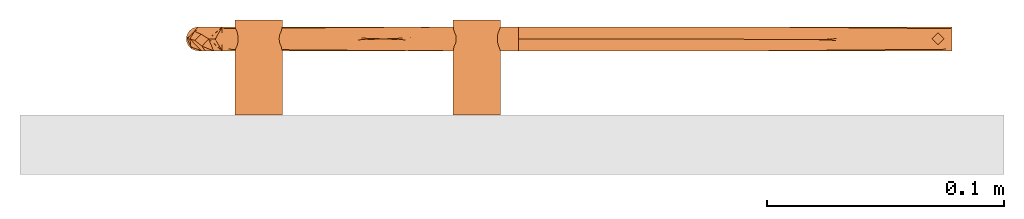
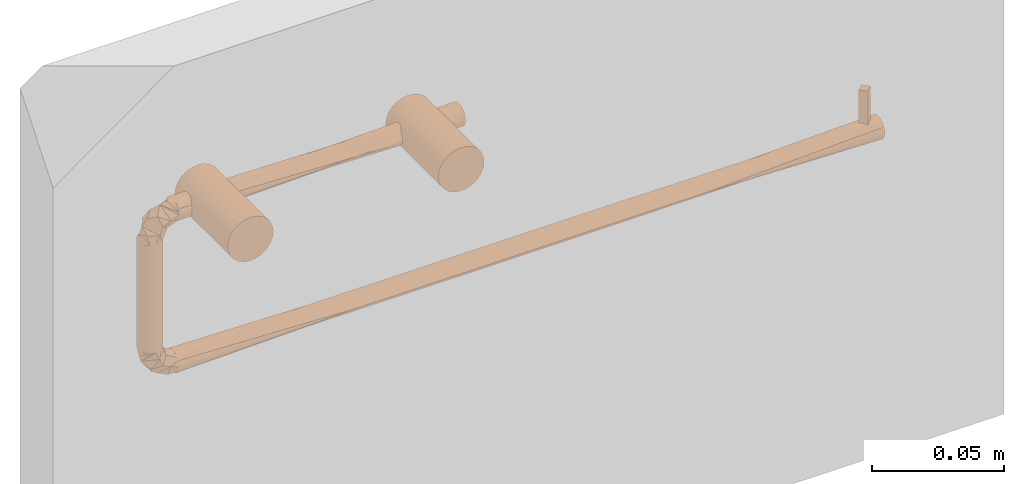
# One storey, part 2 of 2: 1 proxy.
"""IFC2X3 building model written with IfcOpenShell, lengths in millimetres."""

from ifc_helpers import new_model, entity, si_unit, converted_unit, derived_unit, direction, frame, origin, place, context, subcontext, project, spatial, faceted_brep, source, transform, mapped, material, element, save


model = new_model("IFC2X3")

# Units and contexts
model_context = context("Model", 3, precision=1e-05, world=origin(), true_north=direction((2.0, 6.12303176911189e-17, 1.0)))
context_of_model = context(None, 3, precision=1e-05, world=origin(), true_north=direction((2.0, 6.12303176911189e-17, 1.0)))
body_context = subcontext(model_context, "Body", "Model", "MODEL_VIEW")
ifc_project = project(units=[si_unit("LENGTHUNIT", "METRE", prefix="MILLI"), si_unit("AREAUNIT", "SQUARE_METRE"), si_unit("VOLUMEUNIT", "CUBIC_METRE"), converted_unit("PLANEANGLEUNIT", "DEGREE", entity("IfcRatioMeasure", 0.0174532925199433), si_unit("PLANEANGLEUNIT", "RADIAN"), dimensions=[0, 0, 0, 0, 0, 0, 0]), si_unit("MASSUNIT", "GRAM", prefix="KILO"), si_unit("TIMEUNIT", "SECOND"), si_unit("THERMODYNAMICTEMPERATUREUNIT", "KELVIN"), derived_unit("THERMALTRANSMITTANCEUNIT", [(si_unit("MASSUNIT", "GRAM", prefix="KILO"), 1), (si_unit("THERMODYNAMICTEMPERATUREUNIT", "KELVIN"), -1), (si_unit("TIMEUNIT", "SECOND"), -3)]), derived_unit("VOLUMETRICFLOWRATEUNIT", [(si_unit("LENGTHUNIT", "METRE"), 3), (si_unit("TIMEUNIT", "SECOND"), -1)]), si_unit("POWERUNIT", "WATT")], contexts=[model_context, context_of_model])

# Site, building, storey
site_placement = place(None, origin())
site = spatial("IfcSite", under=ifc_project, at=site_placement, Name="Default", CompositionType="ELEMENT")
building_placement = place(site_placement, origin())
building = spatial("IfcBuilding", under=site, at=building_placement, CompositionType="ELEMENT")
storey_placement = place(building_placement, origin())
storey = spatial("IfcBuildingStorey", under=building, at=storey_placement, Name="Level 1", CompositionType="ELEMENT", Elevation=0.0)

# Proxy
ifc_material = material(Name="Stainless Steel")
shared_shape = source(origin(), body_context, "Body", "Brep", [
    faceted_brep([(3.45194365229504, 7.97378390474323, 26.5952722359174), (6.0, 7.97378390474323, 26.5952722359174), (6.0, 10.5218402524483, 26.5952722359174), (6.0, 5.42572755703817, 26.5952722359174), (8.54805634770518, 7.97378390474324, 26.5952722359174), (6.0, 5.42572755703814, 9.70208598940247), (3.45194365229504, 7.9737839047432, 9.70208598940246), (6.0, 10.5218402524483, 9.70208598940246), (8.54805634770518, 7.97378390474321, 9.70208598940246), (6.0, 7.9737839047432, 9.70208598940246)], [[[0, 1, 2]], [[1, 0, 3]], [[4, 1, 3]], [[1, 4, 2]], [[5, 3, 0, 6]], [[0, 2, 7, 6]], [[7, 2, 4, 8]], [[4, 3, 5, 8]], [[7, 9, 6]], [[7, 8, 9]], [[5, 9, 8]], [[5, 6, 9]]]),
    faceted_brep([(183.0, 12.9737839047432, 76.5952722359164), (183.0, 12.8034130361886, 75.3011770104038), (183.0, 12.3039109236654, 74.0952722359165), (183.0, 11.509317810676, 73.0597383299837), (183.0, 10.4737839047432, 72.2651452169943), (183.0, 9.26787913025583, 71.7656431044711), (183.0, 7.97378390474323, 71.5952722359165), (183.0, 6.67968867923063, 71.7656431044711), (183.0, 5.47378390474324, 72.2651452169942), (183.0, 4.43824999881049, 73.0597383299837), (183.0, 3.64365688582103, 74.0952722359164), (183.0, 3.14415477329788, 75.3011770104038), (183.0, 2.97378390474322, 76.5952722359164), (183.0, 3.14415477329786, 77.889367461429), (183.0, 3.64365688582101, 79.0952722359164), (183.0, 4.43824999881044, 80.1308061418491), (183.0, 5.47378390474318, 80.9253992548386), (183.0, 6.67968867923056, 81.4249013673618), (183.0, 7.97378390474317, 81.5952722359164), (183.0, 9.26787913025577, 81.4249013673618), (183.0, 10.4737839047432, 80.9253992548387), (183.0, 11.5093178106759, 80.1308061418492), (183.0, 12.3039109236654, 79.0952722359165), (183.0, 12.8034130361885, 77.8893674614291), (308.0, 4.43824999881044, 80.1308061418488), (239.739610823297, 7.97378375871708, 81.5952722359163), (308.0, 3.64365688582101, 79.095272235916), (308.0, 3.14415477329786, 77.8893674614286), (229.923112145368, 2.97378390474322, 76.5952722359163), (308.0, 2.97378390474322, 76.595272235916), (308.0, 10.4737839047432, 80.9253992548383), (308.0, 11.5093178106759, 80.1308061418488), (308.0, 9.26787913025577, 81.4249013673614), (308.0, 6.67968867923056, 81.4249013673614), (308.0, 7.97378390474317, 81.5952722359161), (308.0, 12.3039109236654, 79.0952722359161), (229.923112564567, 12.9737839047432, 76.5952722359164), (308.0, 5.47378390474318, 80.9253992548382), (308.0, 12.8034130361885, 77.8893674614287), (308.0, 12.9737839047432, 76.5952722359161), (308.0, 11.509317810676, 73.0597383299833), (239.739612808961, 7.9737839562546, 71.5952722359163), (308.0, 12.3039109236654, 74.0952722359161), (308.0, 12.8034130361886, 75.3011770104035), (308.0, 6.67968867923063, 71.7656431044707), (308.0, 7.97378390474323, 71.5952722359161), (308.0, 4.43824999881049, 73.0597383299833), (308.0, 5.47378390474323, 72.2651452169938), (308.0, 9.26787913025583, 71.7656431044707), (308.0, 3.64365688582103, 74.0952722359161), (308.0, 10.4737839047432, 72.2651452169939), (308.0, 3.14415477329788, 75.3011770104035), (310.844988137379, 8.10160170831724, 81.3213384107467), (313.588743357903, 7.97378390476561, 80.515255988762), (322.829629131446, 9.26787913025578, 66.5952722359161), (322.614266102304, 7.9482176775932, 69.9748085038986), (323.0, 7.97378390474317, 66.5952722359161), (319.566570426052, 4.7908598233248, 74.2244342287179), (315.071067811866, 2.97378390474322, 73.6663400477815), (316.321845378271, 2.97378390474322, 70.6466958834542), (316.535533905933, 2.97378390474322, 70.1308061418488), (316.834881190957, 5.95108399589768, 78.1843011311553), (311.535533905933, 2.97378390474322, 75.1308061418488), (312.051423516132, 2.97378390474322, 74.917117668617), (321.477125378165, 7.97378390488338, 73.1806417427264), (318.0, 2.97378390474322, 66.5952722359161), (316.535533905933, 12.9737839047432, 70.1308061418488), (321.078964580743, 11.3560314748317, 70.6139769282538), (319.294095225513, 3.14415477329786, 66.5952722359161), (311.535533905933, 12.9737839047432, 75.1308061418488), (310.025711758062, 12.9737839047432, 75.7561949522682), (317.160922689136, 2.97378390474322, 68.6209840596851), (320.5, 3.64365688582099, 66.5952722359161), (321.535533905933, 4.43824999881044, 66.5952722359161), (322.330127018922, 5.47378390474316, 66.5952722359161), (319.443035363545, 8.59215838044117, 76.2340913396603), (322.829629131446, 6.67968867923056, 66.5952722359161), (316.391760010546, 11.0569562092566, 77.7216990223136), (319.294095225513, 12.8034130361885, 66.5952722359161), (318.0, 12.9737839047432, 66.595272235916), (320.5, 12.3039109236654, 66.5952722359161), (317.160922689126, 12.9737839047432, 68.6209840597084), (322.330127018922, 10.4737839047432, 66.5952722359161), (321.535533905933, 11.5093178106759, 66.5952722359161), (315.071067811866, 12.9737839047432, 73.6663400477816), (312.051423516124, 12.9737839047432, 74.9171176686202), (310.025711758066, 2.97378390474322, 75.7561949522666), (316.321845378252, 12.9737839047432, 70.6466958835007), (312.025000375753, 11.1138053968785, 71.1907754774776), (315.5, 12.3039109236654, 66.595272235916), (316.705904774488, 12.8034130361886, 66.595272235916), (311.615301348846, 6.91767758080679, 70.2105742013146), (313.170370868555, 6.67968867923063, 66.595272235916), (313.669872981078, 5.47378390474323, 66.595272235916), (313.170370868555, 9.26787913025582, 66.595272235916), (314.464466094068, 11.509317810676, 66.595272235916), (313.0, 7.97378390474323, 66.595272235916), (313.669872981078, 10.4737839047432, 66.595272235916), (315.5, 3.64365688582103, 66.5952722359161), (316.705904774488, 3.14415477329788, 66.595272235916), (314.464466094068, 4.43824999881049, 66.595272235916), (319.294095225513, 3.14415477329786, 16.595272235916), (318.0, 2.97378390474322, 16.595272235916), (320.5, 3.643656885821, 16.595272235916), (321.535533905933, 4.43824999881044, 16.595272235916), (322.330127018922, 5.47378390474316, 16.595272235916), (322.829629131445, 6.67968867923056, 16.595272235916), (323.0, 7.97378390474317, 16.595272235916), (322.330127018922, 10.4737839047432, 16.595272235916), (322.829629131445, 9.26787913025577, 16.595272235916), (321.535533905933, 11.5093178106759, 16.595272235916), (320.5, 12.3039109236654, 16.595272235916), (319.294095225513, 12.8034130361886, 16.595272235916), (318.0, 12.9737839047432, 16.595272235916), (316.705904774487, 12.8034130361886, 16.595272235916), (315.5, 12.3039109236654, 16.595272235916), (314.464466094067, 11.509317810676, 16.595272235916), (313.669872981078, 10.4737839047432, 16.595272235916), (313.170370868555, 9.26787913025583, 16.595272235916), (313.0, 7.97378390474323, 16.595272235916), (313.669872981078, 5.47378390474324, 16.595272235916), (314.464466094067, 4.4382499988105, 16.595272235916), (313.170370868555, 6.67968867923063, 16.595272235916), (316.705904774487, 3.14415477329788, 16.595272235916), (315.5, 3.64365688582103, 16.595272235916), (322.726066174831, 8.1016017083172, 13.7502840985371), (321.919983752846, 7.97378390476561, 11.0065288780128), (308.0, 9.26787913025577, 1.76564310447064), (311.379536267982, 7.94821767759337, 1.9810061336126), (308.0, 7.97378390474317, 1.59527223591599), (315.629161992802, 4.79085982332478, 5.0287018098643), (315.071067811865, 2.97378390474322, 9.52420442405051), (312.051423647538, 2.97378390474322, 8.27342685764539), (311.535533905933, 2.97378390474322, 8.05973832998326), (319.589028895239, 5.95108399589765, 7.76039104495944), (316.535533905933, 2.97378390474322, 13.0597383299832), (316.321845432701, 2.97378390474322, 12.5438487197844), (314.58536950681, 7.97378390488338, 3.11814685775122), (308.0, 2.97378390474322, 6.59527223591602), (311.535533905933, 12.9737839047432, 8.05973832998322), (312.018704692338, 11.3560314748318, 3.51630765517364), (308.0, 3.14415477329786, 5.30117701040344), (316.535533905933, 12.9737839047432, 13.0597383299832), (317.160922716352, 12.9737839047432, 14.569560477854), (310.025711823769, 2.97378390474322, 7.4343495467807), (308.0, 3.643656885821, 4.09527223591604), (308.0, 4.43824999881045, 3.05973832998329), (308.0, 5.47378390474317, 2.26514521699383), (317.638819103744, 8.59215838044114, 5.1522368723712), (308.0, 6.67968867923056, 1.76564310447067), (319.126426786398, 11.0569562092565, 8.20351222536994), (308.0, 12.8034130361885, 5.30117701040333), (308.0, 12.9737839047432, 6.59527223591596), (308.0, 12.3039109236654, 4.09527223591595), (310.025711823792, 12.9737839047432, 7.43434954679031), (308.0, 10.4737839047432, 2.26514521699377), (308.0, 11.5093178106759, 3.05973832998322), (315.071067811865, 12.9737839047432, 9.52420442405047), (316.321845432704, 12.9737839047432, 12.543848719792), (317.160922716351, 2.97378390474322, 14.5695604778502), (312.051423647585, 12.9737839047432, 8.27342685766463), (312.595503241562, 11.1138053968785, 12.5702718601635), (308.0, 12.3039109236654, 9.095272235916), (308.0, 12.8034130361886, 7.8893674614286), (311.615301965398, 6.91767758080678, 12.9799708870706), (308.0, 6.67968867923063, 11.4249013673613), (308.0, 5.47378390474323, 10.9253992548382), (308.0, 9.26787913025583, 11.4249013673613), (308.0, 11.509317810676, 10.1308061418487), (308.0, 7.97378390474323, 11.595272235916), (308.0, 10.4737839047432, 10.9253992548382), (308.0, 3.64365688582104, 9.09527223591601), (308.0, 3.14415477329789, 7.88936746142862), (308.0, 4.43824999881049, 10.1308061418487), (0.0, 12.8034130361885, 5.30117701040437), (0.0, 12.3039109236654, 4.09527223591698), (0.0, 11.5093178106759, 3.05973832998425), (0.0, 10.4737839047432, 2.26514521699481), (0.0, 9.26787913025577, 1.76564310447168), (0.0, 7.97378390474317, 1.59527223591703), (0.0, 6.67968867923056, 1.76564310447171), (0.0, 5.47378390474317, 2.26514521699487), (0.0, 4.43824999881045, 3.05973832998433), (0.0, 3.643656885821, 4.09527223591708), (0.0, 3.14415477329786, 5.30117701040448), (0.0, 2.97378390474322, 6.59527223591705), (0.0, 3.14415477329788, 7.88936746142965), (0.0, 3.64365688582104, 9.09527223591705), (0.0, 4.43824999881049, 10.1308061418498), (0.0, 5.47378390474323, 10.9253992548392), (0.0, 6.67968867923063, 11.4249013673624), (0.0, 7.97378390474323, 11.595272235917), (0.0, 9.26787913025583, 11.4249013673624), (0.0, 10.4737839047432, 10.9253992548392), (0.0, 11.509317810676, 10.1308061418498), (0.0, 12.3039109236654, 9.09527223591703), (0.0, 12.8034130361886, 7.88936746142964), (0.0, 12.9737839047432, 6.59527223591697), (57.480777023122, 7.66819249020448, 1.60461958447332), (114.961554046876, 7.97378387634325, 1.59527223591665), (78.0768863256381, 2.97378390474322, 6.59527223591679), (78.0768868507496, 12.9737839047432, 6.59527223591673), (229.92311314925, 12.9737839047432, 6.59527223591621), (229.923113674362, 2.97378390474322, 6.59527223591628), (154.0, 2.97378390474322, 6.59527223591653), (151.846227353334, 2.97378390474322, 6.59527223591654), (175.091580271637, 8.033819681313, 1.59563267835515), (248.961910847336, 7.97378373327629, 1.5952722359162), (151.846226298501, 12.9737839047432, 6.59527223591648), (154.0, 12.9737839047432, 6.59527223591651), (57.4807770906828, 8.27937529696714, 11.5859248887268), (248.961910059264, 7.9737839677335, 11.5952722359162), (114.961554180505, 7.97378391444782, 11.5952722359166), (175.091580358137, 7.91374810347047, 11.5949117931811)], [[[0, 1, 2, 3, 4, 5, 6, 7, 8, 9, 10, 11, 12, 13, 14, 15, 16, 17, 18, 19, 20, 21, 22, 23]], [[24, 25, 26]], [[27, 28, 29]], [[13, 12, 28]], [[30, 31, 25]], [[30, 25, 32]], [[25, 33, 34]], [[18, 17, 25]], [[35, 36, 25]], [[25, 37, 33]], [[28, 25, 15]], [[28, 15, 14]], [[13, 28, 14]], [[16, 15, 25]], [[28, 27, 26]], [[32, 25, 34]], [[18, 25, 19]], [[38, 39, 36]], [[36, 0, 23]], [[23, 22, 36]], [[36, 35, 38]], [[19, 25, 20]], [[25, 36, 21]], [[16, 25, 17]], [[24, 37, 25]], [[26, 25, 28]], [[25, 21, 20]], [[22, 21, 36]], [[31, 35, 25]], [[40, 41, 42]], [[43, 36, 39]], [[1, 0, 36]], [[44, 41, 45]], [[41, 7, 6]], [[46, 41, 47]], [[47, 41, 44]], [[48, 45, 41]], [[5, 41, 6]], [[28, 41, 49]], [[41, 50, 48]], [[3, 36, 41]], [[36, 3, 2]], [[1, 36, 2]], [[3, 41, 4]], [[36, 43, 42]], [[51, 29, 28]], [[28, 12, 11]], [[11, 10, 28]], [[51, 28, 49]], [[40, 50, 41]], [[41, 28, 9]], [[5, 4, 41]], [[42, 41, 36]], [[41, 9, 8]], [[9, 28, 10]], [[8, 7, 41]], [[46, 49, 41]], [[37, 52, 33]], [[37, 24, 52]], [[53, 52, 27]], [[27, 52, 26]], [[26, 52, 24]], [[27, 29, 53]], [[32, 34, 52]], [[52, 30, 32]], [[54, 55, 56]], [[57, 58, 59, 60]], [[33, 52, 34]], [[52, 31, 30]], [[61, 62, 63, 58]], [[38, 35, 52]], [[35, 31, 52]], [[38, 52, 53]], [[38, 53, 39]], [[55, 64, 65]], [[53, 62, 61]], [[66, 64, 67]], [[68, 55, 65]], [[53, 69, 70, 39]], [[64, 60, 71, 65]], [[68, 72, 55]], [[55, 73, 74]], [[75, 64, 66]], [[74, 76, 55]], [[75, 77, 61]], [[75, 57, 64]], [[72, 73, 55]], [[57, 75, 61]], [[56, 55, 76]], [[67, 78, 79]], [[80, 67, 55]], [[67, 79, 81, 66]], [[64, 55, 67]], [[77, 53, 61]], [[55, 82, 83]], [[77, 75, 84]], [[83, 80, 55]], [[77, 84, 85, 69]], [[80, 78, 67]], [[55, 54, 82]], [[53, 29, 86, 62]], [[53, 77, 69]], [[61, 58, 57]], [[60, 64, 57]], [[75, 66, 87, 84]], [[85, 84, 88]], [[70, 42, 43]], [[89, 81, 90]], [[85, 88, 40]], [[89, 87, 66, 81]], [[45, 48, 91]], [[50, 88, 48]], [[88, 84, 87]], [[85, 40, 42]], [[49, 63, 62, 86]], [[46, 63, 49]], [[29, 51, 86]], [[44, 91, 47]], [[91, 92, 93]], [[63, 46, 47]], [[63, 47, 58]], [[91, 58, 47]], [[49, 86, 51]], [[88, 91, 48]], [[94, 91, 88]], [[95, 88, 87]], [[42, 70, 69, 85]], [[96, 91, 94]], [[79, 90, 81]], [[88, 50, 40]], [[88, 95, 97]], [[43, 39, 70]], [[95, 87, 89]], [[98, 71, 60, 59]], [[99, 65, 71]], [[58, 91, 93]], [[44, 45, 91]], [[98, 59, 100]], [[96, 92, 91]], [[93, 59, 58]], [[71, 98, 99]], [[59, 93, 100]], [[94, 88, 97]], [[101, 68, 65, 102]], [[103, 72, 68, 101]], [[73, 104, 105, 74]], [[103, 104, 73, 72]], [[74, 105, 106, 76]], [[76, 106, 107, 56]], [[108, 82, 54, 109]], [[110, 83, 82, 108]], [[80, 111, 112, 78]], [[110, 111, 80, 83]], [[78, 112, 113, 79]], [[54, 56, 107, 109]], [[79, 113, 114, 90]], [[115, 89, 90, 114]], [[95, 116, 117, 97]], [[115, 116, 95, 89]], [[97, 117, 118, 94]], [[94, 118, 119, 96]], [[120, 121, 100, 93]], [[122, 120, 93, 92]], [[123, 102, 65, 99]], [[124, 123, 99, 98]], [[121, 124, 98, 100]], [[92, 96, 119, 122]], [[105, 125, 106]], [[105, 104, 125]], [[126, 125, 101]], [[101, 125, 103]], [[103, 125, 104]], [[101, 102, 126]], [[109, 107, 125]], [[125, 108, 109]], [[127, 128, 129]], [[130, 131, 132, 133]], [[106, 125, 107]], [[125, 110, 108]], [[134, 135, 136, 131]], [[112, 111, 125]], [[111, 110, 125]], [[112, 125, 126]], [[112, 126, 113]], [[128, 137, 138]], [[126, 135, 134]], [[139, 137, 140]], [[141, 128, 138]], [[126, 142, 143, 113]], [[137, 133, 144, 138]], [[141, 145, 128]], [[128, 146, 147]], [[148, 137, 139]], [[147, 149, 128]], [[148, 150, 134]], [[148, 130, 137]], [[145, 146, 128]], [[130, 148, 134]], [[129, 128, 149]], [[140, 151, 152]], [[153, 140, 128]], [[140, 152, 154, 139]], [[137, 128, 140]], [[150, 126, 134]], [[128, 155, 156]], [[150, 148, 157]], [[156, 153, 128]], [[150, 157, 158, 142]], [[153, 151, 140]], [[128, 127, 155]], [[126, 102, 159, 135]], [[126, 150, 142]], [[134, 131, 130]], [[133, 137, 130]], [[148, 139, 160, 157]], [[158, 157, 161]], [[143, 115, 114]], [[162, 154, 163]], [[158, 161, 116]], [[162, 160, 139, 154]], [[119, 118, 164]], [[117, 161, 118]], [[161, 157, 160]], [[158, 116, 115]], [[124, 136, 135, 159]], [[121, 136, 124]], [[102, 123, 159]], [[122, 164, 120]], [[164, 165, 166]], [[136, 121, 120]], [[136, 120, 131]], [[164, 131, 120]], [[124, 159, 123]], [[161, 164, 118]], [[167, 164, 161]], [[168, 161, 160]], [[115, 143, 142, 158]], [[169, 164, 167]], [[152, 163, 154]], [[161, 117, 116]], [[161, 168, 170]], [[114, 113, 143]], [[168, 160, 162]], [[171, 144, 133, 132]], [[172, 138, 144]], [[131, 164, 166]], [[122, 119, 164]], [[171, 132, 173]], [[169, 165, 164]], [[166, 132, 131]], [[144, 171, 172]], [[132, 166, 173]], [[167, 161, 170]], [[174, 175, 176, 177, 178, 179, 180, 181, 182, 183, 184, 185, 186, 187, 188, 189, 190, 191, 192, 193, 194, 195, 196, 197]], [[198, 182, 181]], [[198, 183, 182]], [[198, 199, 200]], [[198, 179, 178]], [[174, 197, 201]], [[202, 152, 151]], [[198, 177, 176]], [[177, 198, 178]], [[185, 184, 200]], [[141, 138, 203]], [[199, 204, 205, 200]], [[204, 199, 206]], [[145, 141, 203]], [[206, 203, 204]], [[183, 198, 200]], [[202, 153, 207]], [[156, 155, 207]], [[156, 207, 153]], [[174, 201, 175]], [[175, 201, 198]], [[198, 180, 179]], [[206, 202, 207]], [[153, 202, 151]], [[199, 198, 201]], [[206, 207, 203]], [[199, 201, 208]], [[183, 200, 184]], [[145, 203, 207]], [[146, 145, 207]], [[198, 181, 180]], [[147, 146, 207]], [[149, 207, 129]], [[149, 147, 207]], [[155, 127, 207]], [[206, 208, 209, 202]], [[199, 208, 206]], [[207, 127, 129]], [[175, 198, 176]], [[210, 191, 190]], [[192, 210, 193]], [[210, 195, 194]], [[173, 211, 171]], [[210, 212, 201]], [[186, 185, 200]], [[203, 138, 172]], [[210, 189, 188]], [[189, 210, 190]], [[194, 193, 210]], [[212, 209, 208, 201]], [[209, 212, 213]], [[162, 163, 202]], [[195, 210, 201]], [[202, 209, 213]], [[211, 165, 169]], [[203, 171, 211]], [[163, 152, 202]], [[201, 197, 196]], [[173, 166, 211]], [[210, 192, 191]], [[186, 200, 187]], [[200, 210, 187]], [[213, 203, 211]], [[213, 211, 202]], [[171, 203, 172]], [[212, 210, 200]], [[212, 200, 205]], [[162, 202, 211]], [[211, 168, 162]], [[213, 205, 204, 203]], [[212, 205, 213]], [[170, 168, 211]], [[167, 170, 211]], [[167, 211, 169]], [[166, 165, 211]], [[195, 201, 196]], [[188, 187, 210]]]),
    faceted_brep([(297.499999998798, 0.0, 67.9350181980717), (299.571067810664, 0.0, 69.5242044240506), (301.160254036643, 0.0, 71.595272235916), (302.159258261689, 0.0, 74.0070817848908), (302.499999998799, 0.0, 76.5952722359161), (302.159258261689, 0.0, 79.1834626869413), (301.160254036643, 0.0, 81.5952722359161), (299.571067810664, 0.0, 83.6663400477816), (297.499999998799, 0.0, 85.2555262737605), (295.088190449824, 0.0, 86.2545304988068), (292.499999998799, 0.0, 86.5952722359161), (289.911809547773, 0.0, 86.2545304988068), (287.499999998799, 0.0, 85.2555262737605), (285.428932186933, 0.0, 83.6663400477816), (283.839745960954, 0.0, 81.5952722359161), (282.840741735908, 0.0, 79.1834626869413), (282.499999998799, 0.0, 76.5952722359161), (282.840741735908, 0.0, 74.0070817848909), (283.839745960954, 0.0, 71.5952722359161), (285.428932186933, 0.0, 69.5242044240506), (287.499999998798, 0.0, 67.9350181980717), (289.911809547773, 0.0, 66.9360139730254), (292.499999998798, 0.0, 66.5952722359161), (295.088190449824, 0.0, 66.9360139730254), (292.499999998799, 40.0, 86.5952722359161), (295.088190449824, 40.0, 86.2545304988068), (297.499999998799, 40.0, 85.2555262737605), (299.571067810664, 40.0, 83.6663400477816), (301.160254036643, 40.0, 81.5952722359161), (302.159258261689, 40.0, 79.1834626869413), (302.499999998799, 40.0, 76.595272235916), (302.159258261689, 40.0, 74.0070817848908), (301.160254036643, 40.0, 71.595272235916), (299.571067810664, 40.0, 69.5242044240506), (297.499999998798, 40.0, 67.9350181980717), (295.088190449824, 40.0, 66.9360139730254), (292.499999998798, 40.0, 66.5952722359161), (289.911809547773, 40.0, 66.9360139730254), (287.499999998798, 40.0, 67.9350181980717), (285.428932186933, 40.0, 69.5242044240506), (283.839745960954, 40.0, 71.5952722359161), (282.840741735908, 40.0, 74.0070817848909), (282.499999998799, 40.0, 76.5952722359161), (282.840741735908, 40.0, 79.1834626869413), (283.839745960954, 40.0, 81.5952722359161), (285.428932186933, 40.0, 83.6663400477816), (287.499999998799, 40.0, 85.2555262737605), (289.911809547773, 40.0, 86.2545304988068)], [[[0, 1, 2, 3, 4, 5, 6, 7, 8, 9, 10, 11, 12, 13, 14, 15, 16, 17, 18, 19, 20, 21, 22, 23]], [[24, 25, 26, 27, 28, 29, 30, 31, 32, 33, 34, 35, 36, 37, 38, 39, 40, 41, 42, 43, 44, 45, 46, 47]], [[41, 17, 16, 42]], [[40, 18, 17, 41]], [[20, 19, 39, 38]], [[40, 39, 19, 18]], [[21, 20, 38, 37]], [[22, 21, 37, 36]], [[35, 23, 22, 36]], [[34, 0, 23, 35]], [[2, 1, 33, 32]], [[34, 33, 1, 0]], [[3, 2, 32, 31]], [[4, 3, 31, 30]], [[29, 5, 4, 30]], [[28, 6, 5, 29]], [[8, 7, 27, 26]], [[28, 27, 7, 6]], [[9, 8, 26, 25]], [[10, 9, 25, 24]], [[47, 11, 10, 24]], [[46, 12, 11, 47]], [[14, 13, 45, 44]], [[46, 45, 13, 12]], [[15, 14, 44, 43]], [[16, 15, 43, 42]]]),
    faceted_brep([(205.499999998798, 0.0, 67.9350181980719), (207.571067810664, 0.0, 69.5242044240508), (209.160254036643, 0.0, 71.5952722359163), (210.159258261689, 0.0, 74.0070817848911), (210.499999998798, 0.0, 76.5952722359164), (210.159258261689, 0.0, 79.1834626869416), (209.160254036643, 0.0, 81.5952722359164), (207.571067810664, 0.0, 83.6663400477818), (205.499999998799, 0.0, 85.2555262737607), (203.088190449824, 0.0, 86.254530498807), (200.499999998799, 0.0, 86.5952722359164), (197.911809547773, 0.0, 86.254530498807), (195.499999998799, 0.0, 85.2555262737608), (193.428932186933, 0.0, 83.6663400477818), (191.839745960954, 0.0, 81.5952722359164), (190.840741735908, 0.0, 79.1834626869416), (190.499999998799, 0.0, 76.5952722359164), (190.840741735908, 0.0, 74.0070817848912), (191.839745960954, 0.0, 71.5952722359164), (193.428932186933, 0.0, 69.5242044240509), (195.499999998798, 0.0, 67.935018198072), (197.911809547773, 0.0, 66.9360139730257), (200.499999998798, 0.0, 66.5952722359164), (203.088190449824, 0.0, 66.9360139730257), (200.499999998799, 40.0, 86.5952722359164), (203.088190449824, 40.0, 86.254530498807), (205.499999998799, 40.0, 85.2555262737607), (207.571067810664, 40.0, 83.6663400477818), (209.160254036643, 40.0, 81.5952722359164), (210.159258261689, 40.0, 79.1834626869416), (210.499999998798, 40.0, 76.5952722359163), (210.159258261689, 40.0, 74.0070817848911), (209.160254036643, 40.0, 71.5952722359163), (207.571067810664, 40.0, 69.5242044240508), (205.499999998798, 40.0, 67.9350181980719), (203.088190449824, 40.0, 66.9360139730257), (200.499999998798, 40.0, 66.5952722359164), (197.911809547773, 40.0, 66.9360139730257), (195.499999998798, 40.0, 67.935018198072), (193.428932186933, 40.0, 69.5242044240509), (191.839745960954, 40.0, 71.5952722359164), (190.840741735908, 40.0, 74.0070817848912), (190.499999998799, 40.0, 76.5952722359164), (190.840741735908, 40.0, 79.1834626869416), (191.839745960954, 40.0, 81.5952722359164), (193.428932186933, 40.0, 83.6663400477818), (195.499999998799, 40.0, 85.2555262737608), (197.911809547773, 40.0, 86.254530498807)], [[[0, 1, 2, 3, 4, 5, 6, 7, 8, 9, 10, 11, 12, 13, 14, 15, 16, 17, 18, 19, 20, 21, 22, 23]], [[24, 25, 26, 27, 28, 29, 30, 31, 32, 33, 34, 35, 36, 37, 38, 39, 40, 41, 42, 43, 44, 45, 46, 47]], [[41, 17, 16, 42]], [[40, 18, 17, 41]], [[20, 19, 39, 38]], [[40, 39, 19, 18]], [[21, 20, 38, 37]], [[22, 21, 37, 36]], [[35, 23, 22, 36]], [[34, 0, 23, 35]], [[2, 1, 33, 32]], [[34, 33, 1, 0]], [[3, 2, 32, 31]], [[4, 3, 31, 30]], [[29, 5, 4, 30]], [[28, 6, 5, 29]], [[8, 7, 27, 26]], [[28, 27, 7, 6]], [[9, 8, 26, 25]], [[10, 9, 25, 24]], [[47, 11, 10, 24]], [[46, 12, 11, 47]], [[14, 13, 45, 44]], [[46, 45, 13, 12]], [[15, 14, 44, 43]], [[16, 15, 43, 42]]]),
])
proxy_placement = place(storey_placement, frame((1424.33030260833, 4017.81960013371, 85.0885737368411), z_axis=(0.0, 0.0, 1.0), x_axis=(-1.0, 0.0, 0.0)))
element("IfcBuildingElementProxy", 1, at=proxy_placement, inside=storey, material=ifc_material, Name="BC 270-2:BC 270-2 Dolphin Stainless Steel Toilet Roll Holder", ObjectType="BC 270-2 Dolphin Stainless Steel Toilet Roll Holder", CompositionType="ELEMENT", context=body_context, shape_type="MappedRepresentation", body=[
    mapped(shared_shape, transform((0.0, 0.0, 0.0), scale=1.0)),
])

save(model, "model.ifc")
